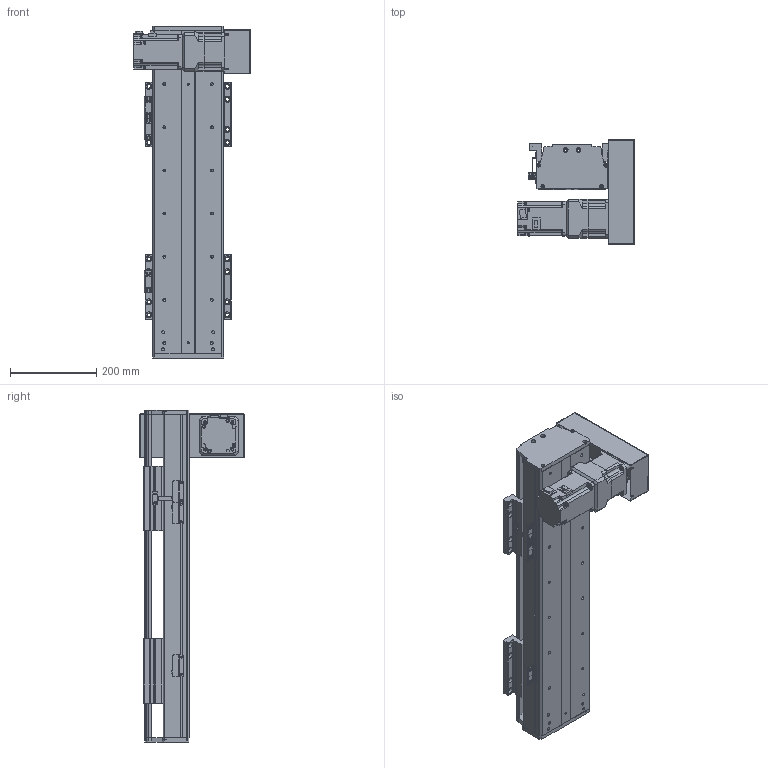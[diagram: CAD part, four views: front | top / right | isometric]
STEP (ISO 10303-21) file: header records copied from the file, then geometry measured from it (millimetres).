
FILE_DESCRIPTION(/* description */ (''),/* implementation_level */ '2;1');
FILE_NAME(/* name */ 'C:\Users\PC\Desktop\3D도면\STEP\새 폴더\DSB165-DR7G-W0400-L.stp',/* time_stamp */ '2018-06-25T15:49:42+09:00',/* author */ ('PC'),/* organization */ (''),/* preprocessor_version */ 'ST-DEVELOPER v16.5',/* originating_system */ 'Autodesk Inventor 2017',/* authorisation */ '');
FILE_SCHEMA (('AUTOMOTIVE_DESIGN { 1 0 10303 214 3 1 1 }'));
Length unit declared in the file: millimetre
Products named in the file (12): DSB165-DL7G-W0400-R_MIR; DSB165-BASE-L_MIR; hg-kr73__MIR; ab0901-p0401300102_MIR; 11-DSB165 BELT COVER_MIR; 12-DSB165-REAR COVER_MIR; 14-DSB165-FRONT COVER_MIR; DSB165-UP COVER_MIR; DSB165-TABLE(MSB20S)_MIR; DSR165-SENSOR DOG_MIR; SENSOR BRACKET(EE-SX674A)_MIR; pm-y65_step_MIR
Assembly tree (16 placements, depth 2):
  DSB165-DL7G-W0400-R_MIR
    DSB165-BASE-L_MIR
    hg-kr73__MIR
    ab0901-p0401300102_MIR
    11-DSB165 BELT COVER_MIR
    12-DSB165-REAR COVER_MIR
    14-DSB165-FRONT COVER_MIR
    DSB165-UP COVER_MIR
    DSB165-TABLE(MSB20S)_MIR  x2
    DSR165-SENSOR DOG_MIR
    pm-y65_step_MIR  x3
    SENSOR BRACKET(EE-SX674A)_MIR  x3
Bounding box: 270 x 242 x 770 mm (x, y, z)
Volume: 6126399.8 mm3; surface area: 1400884 mm2
Topology: 17 solids, 17 shells, 1633 faces, 4396 edges, 2902 vertices
Faces by surface type: plane 921, cylinder 602, cone 98, sphere 8, torus 4
Full cylindrical faces by diameter (mm): 2.459 x20, 3.5 x6, 4.134 x38, 4.5 x18, 5 x27, 5.5 x36, 5.9 x4, 6 x4, 6.6 x14, 6.647 x30, 6.8 x1, 7 x4, 7.6 x4, 8.4 x1, 8.5 x24, 8.7 x1, 9.5 x32, 11 x6, 14 x16, 19 x1, 22 x1, 24 x1, 25 x1, 28 x1, 67 x1, 70 x2, 80 x1
Entity records: 35416 total; most frequent: DIRECTION 6122, CARTESIAN_POINT 5967, ORIENTED_EDGE 5466, EDGE_CURVE 2733, AXIS2_PLACEMENT_3D 2231, VERTEX_POINT 1938, EDGE_LOOP 1663, LINE 1660
